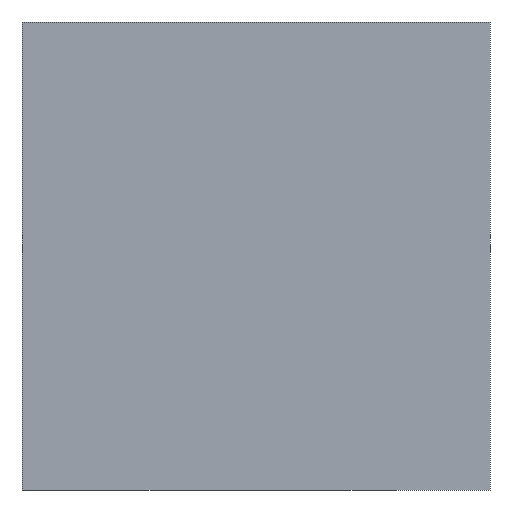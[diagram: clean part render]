
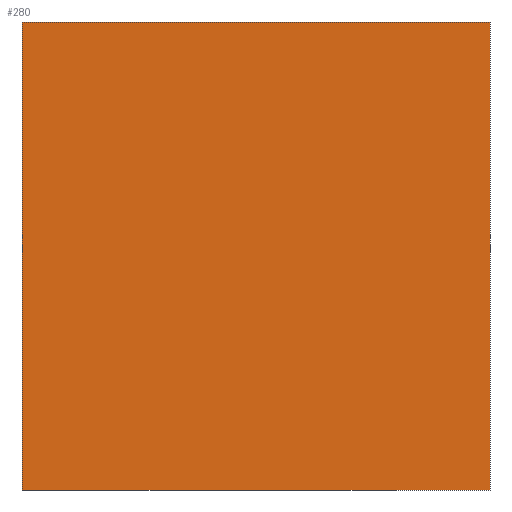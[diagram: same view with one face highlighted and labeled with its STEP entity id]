
A CAD part, left-side view. The second image highlights one B-rep face of the part: STEP entity #280.
In plain terms, the highlighted planar face has unit normal (-1, 0, 0).
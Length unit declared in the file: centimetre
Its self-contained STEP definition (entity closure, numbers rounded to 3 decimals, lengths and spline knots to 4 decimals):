
#15 = LINE ( 'NONE', #525, #315 ) ;
#55 = DIRECTION ( 'NONE',  ( 0., -1., 0. ) ) ;
#93 = VECTOR ( 'NONE', #132, 100. ) ;
#101 = ORIENTED_EDGE ( 'NONE', *, *, #414, .T. ) ;
#128 = CARTESIAN_POINT ( 'NONE',  ( 0., 1000., 1000. ) ) ;
#132 = DIRECTION ( 'NONE',  ( 0., 0., -1. ) ) ;
#148 = DIRECTION ( 'NONE',  ( 0., -1., 0. ) ) ;
#149 = CARTESIAN_POINT ( 'NONE',  ( 0., 0., 0. ) ) ;
#167 = CARTESIAN_POINT ( 'NONE',  ( 0., 1000., 1000. ) ) ;
#170 = LINE ( 'NONE', #292, #93 ) ;
#173 = DIRECTION ( 'NONE',  ( 1., 0., 0. ) ) ;
#186 = CARTESIAN_POINT ( 'NONE',  ( 0., 1000., 0. ) ) ;
#217 = FACE_OUTER_BOUND ( 'NONE', #535, .T. ) ;
#226 = ORIENTED_EDGE ( 'NONE', *, *, #232, .F. ) ;
#232 = EDGE_CURVE ( 'NONE', #347, #336, #170, .T. ) ;
#268 = VECTOR ( 'NONE', #55, 100. ) ;
#273 = CARTESIAN_POINT ( 'NONE',  ( 0., 1000., 1000. ) ) ;
#280 = ADVANCED_FACE ( 'NONE', ( #217 ), #466, .F. ) ;
#292 = CARTESIAN_POINT ( 'NONE',  ( 0., 0., 1000. ) ) ;
#315 = VECTOR ( 'NONE', #148, 100. ) ;
#328 = VERTEX_POINT ( 'NONE', #128 ) ;
#336 = VERTEX_POINT ( 'NONE', #149 ) ;
#347 = VERTEX_POINT ( 'NONE', #356 ) ;
#348 = LINE ( 'NONE', #273, #400 ) ;
#351 = EDGE_CURVE ( 'NONE', #425, #336, #389, .T. ) ;
#352 = ORIENTED_EDGE ( 'NONE', *, *, #351, .T. ) ;
#356 = CARTESIAN_POINT ( 'NONE',  ( 0., 0., 1000. ) ) ;
#389 = LINE ( 'NONE', #186, #268 ) ;
#400 = VECTOR ( 'NONE', #474, 100. ) ;
#405 = EDGE_CURVE ( 'NONE', #328, #347, #15, .T. ) ;
#414 = EDGE_CURVE ( 'NONE', #328, #425, #348, .T. ) ;
#425 = VERTEX_POINT ( 'NONE', #485 ) ;
#466 = PLANE ( 'NONE',  #506 ) ;
#474 = DIRECTION ( 'NONE',  ( 0., 0., -1. ) ) ;
#485 = CARTESIAN_POINT ( 'NONE',  ( 0., 1000., 0. ) ) ;
#506 = AXIS2_PLACEMENT_3D ( 'NONE', #167, #173, #510 ) ;
#507 = ORIENTED_EDGE ( 'NONE', *, *, #405, .F. ) ;
#510 = DIRECTION ( 'NONE',  ( 0., 0., -1. ) ) ;
#525 = CARTESIAN_POINT ( 'NONE',  ( 0., 1000., 1000. ) ) ;
#535 = EDGE_LOOP ( 'NONE', ( #352, #226, #507, #101 ) ) ;
